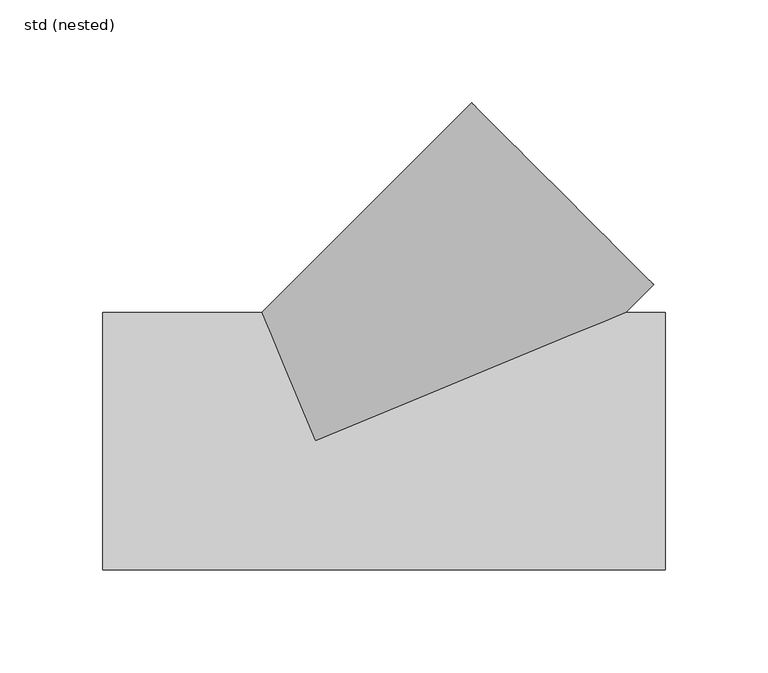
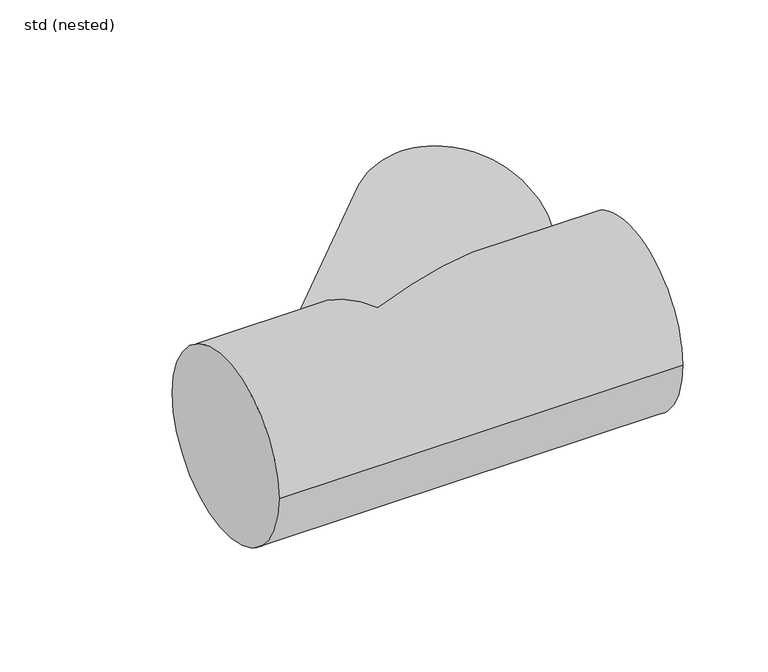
"""IFC4 building model written with IfcOpenShell, lengths in millimetres: pipe fitting geometry, ZZZ_do not use_PIF_ST_UN_ACO pipe branch_ACO : std (nested)."""

from ifc_helpers import new_model, si_unit, frame, origin, place, context, project, spatial, circle_curve, ellipse_curve, source, transform, mapped, element, save
from ifc_brep_helpers import plane_surface, cylinder_surface, advanced_brep


def std_nested_0749ac55(model_context):
    return source(origin(), model_context, "Body", "AdvancedBrep", [
        advanced_brep(
        [(170.0, -62.5, 0.0), (170.0, 62.5, 0.0), (-103.0, -62.5, 0.0), (-103.0, 62.5, 0.0), (-25.8859332, 62.5, 0.0), (0.0, 0.0, -62.5), (150.9024214, 62.5, 0.0), (0.0, 0.0, 62.5), (164.4073393, 76.0031367, 0.0), (76.0248209, 164.3973132, 0.0)],
        [
            (0, 1, circle_curve(frame((170.0, 0.0, 0.0), z_axis=(1.0, 0.0, 0.0), x_axis=(0.0, 1.0, 0.0)), 62.5)),
            (1, 0, circle_curve(frame((170.0, 0.0, 0.0), z_axis=(1.0, 0.0, 0.0), x_axis=(0.0, 1.0, 0.0)), 62.5)),
            (2, 3, circle_curve(frame((-103.0, 0.0, 0.0), z_axis=(-1.0, 0.0, 0.0), x_axis=(0.0, 1.0, 0.0)), 62.5)),
            (3, 2, circle_curve(frame((-103.0, 0.0, 0.0), z_axis=(-1.0, 0.0, 0.0), x_axis=(0.0, 1.0, 0.0)), 62.5)),
            (0, 2),
            (3, 4),
            (4, 5, ellipse_curve(frame((0.0, 0.0, 0.0), z_axis=(-0.9238921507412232, -0.38265296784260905, 0.0), x_axis=(0.38265296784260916, -0.9238921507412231, 0.0)), 67.6485886, 62.5)),
            (5, 6, ellipse_curve(frame((0.0, 0.0, 0.0), z_axis=(0.38265296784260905, -0.9238921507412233, 0.0), x_axis=(0.9238921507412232, 0.38265296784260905, 0.0)), 163.3333732, 62.5)),
            (6, 1),
            (6, 7, ellipse_curve(frame((0.0, 0.0, 0.0), z_axis=(0.38265296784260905, -0.9238921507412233, 0.0), x_axis=(0.9238921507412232, 0.38265296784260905, 0.0)), 163.3333732, 62.5)),
            (7, 4, ellipse_curve(frame((0.0, 0.0, 0.0), z_axis=(-0.9238921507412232, -0.38265296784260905, 0.0), x_axis=(0.38265296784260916, -0.9238921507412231, 0.0)), 67.6485886, 62.5)),
            (8, 9, circle_curve(frame((120.2160801, 120.200225, 0.0), z_axis=(0.7071534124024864, 0.7070601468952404, 0.0), x_axis=(-0.7070601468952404, 0.7071534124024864, 0.0)), 62.5)),
            (9, 8, circle_curve(frame((120.2160801, 120.200225, 0.0), z_axis=(0.7071534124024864, 0.7070601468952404, 0.0), x_axis=(-0.7070601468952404, 0.7071534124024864, 0.0)), 62.5)),
            (9, 4),
            (6, 8),
        ],
        [
            plane_surface(frame((170.0, 62.5, 0.0), z_axis=(1.0, 0.0, 0.0), x_axis=(0.0, 0.0, 1.0))),
            plane_surface(frame((-103.0, 62.5, 0.0), z_axis=(-1.0, 0.0, 0.0), x_axis=(0.0, 0.0, -1.0))),
            cylinder_surface(frame((-103.0, 0.0, 0.0), z_axis=(1.0, 0.0, 0.0), x_axis=(0.0, 1.0, 0.0)), 62.5),
            plane_surface(frame((120.2160801, 120.200225, 0.0), z_axis=(0.7071534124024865, 0.7070601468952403, 0.0), x_axis=(0.0, 0.0, 1.0))),
            cylinder_surface(frame((0.0, 0.0, 0.0), z_axis=(-0.7071534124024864, -0.7070601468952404, 0.0), x_axis=(-0.7070601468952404, 0.7071534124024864, 0.0)), 62.5),
        ],
        [
            (0, [[1, 2]]),
            (1, [[3, 4]]),
            (2, [[-1, 5, -4, 6, 7, 8, 9]]),
            (2, [[-2, -9, 10, 11, -6, -3, -5]]),
            (3, [[12, 13]]),
            (4, [[-13, 14, -11, -10, 15]]),
            (4, [[-12, -15, -8, -7, -14]]),
        ],
    ),
    ])


if __name__ == "__main__":
    model = new_model("IFC4")
    model_context = context("Model", 3, world=origin())
    ifc_project = project(units=[si_unit("LENGTHUNIT", "METRE", prefix="MILLI")], contexts=[model_context])
    site = spatial("IfcSite", under=ifc_project)
    building = spatial("IfcBuilding", under=site)
    placement = place(None, origin())
    std_nested_shape = std_nested_0749ac55(model_context)
    element("IfcPipeFitting", 1, ObjectType="ZZZ_do not use_PIF_ST_UN_ACO pipe branch_ACO : std (nested)", at=placement, inside=building, context=model_context, shape_type="MappedRepresentation", body=[
        mapped(std_nested_shape, transform((0.0, 0.0, 0.0), x_axis=(1.0, 0.0, 0.0), y_axis=(0.0, 1.0, 0.0), z_axis=(0.0, 0.0, 1.0))),
    ])
    save(model, "model.ifc")
